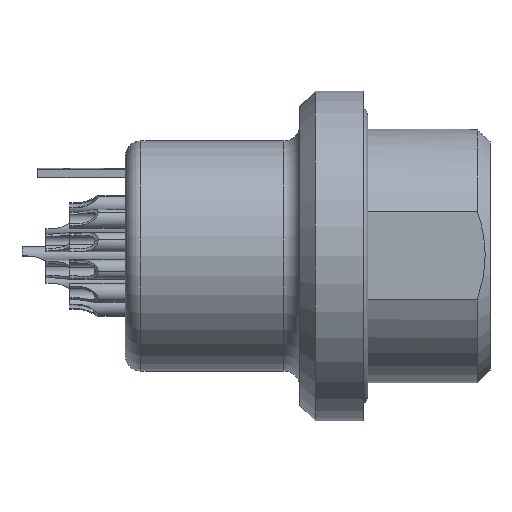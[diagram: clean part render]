
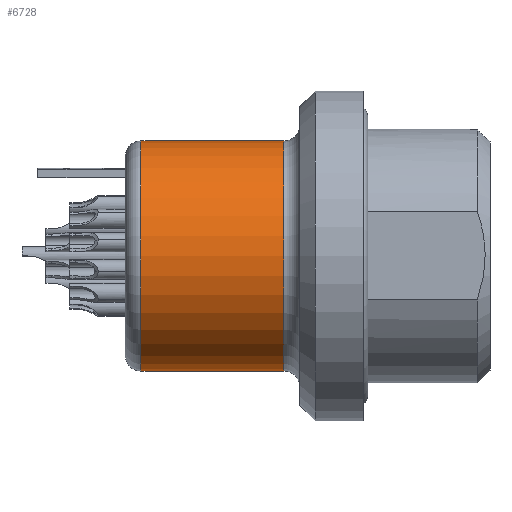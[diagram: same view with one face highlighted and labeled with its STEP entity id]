
A CAD part, top view. The second image highlights one B-rep face of the part: STEP entity #6728.
In plain terms, the highlighted cylindrical face has radius 7.25 mm (diameter 14.5 mm), a partial arc.
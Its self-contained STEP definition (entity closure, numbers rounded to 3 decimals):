
#351=CARTESIAN_POINT('',(-14.,0.,0.));
#352=DIRECTION('',(1.,0.,0.));
#353=DIRECTION('',(0.,1.,0.));
#354=AXIS2_PLACEMENT_3D('',#351,#352,#353);
#371=DIRECTION('',(-1.,0.,0.));
#372=VECTOR('',#371,9.);
#373=CARTESIAN_POINT('',(-5.,7.25,0.));
#374=LINE('',#373,#372);
#375=DIRECTION('',(-1.,0.,0.));
#376=VECTOR('',#375,9.);
#377=CARTESIAN_POINT('',(-5.,-7.25,0.));
#378=LINE('',#377,#376);
#384=CARTESIAN_POINT('',(-5.,0.,0.));
#385=DIRECTION('',(-1.,0.,0.));
#386=DIRECTION('',(0.,-1.,0.));
#387=AXIS2_PLACEMENT_3D('',#384,#385,#386);
#5587=CARTESIAN_POINT('',(-5.,7.25,0.));
#5588=VERTEX_POINT('',#5587);
#5589=CARTESIAN_POINT('',(-5.,-7.25,0.));
#5590=VERTEX_POINT('',#5589);
#5591=CARTESIAN_POINT('',(-14.,7.25,0.));
#5592=VERTEX_POINT('',#5591);
#5593=CARTESIAN_POINT('',(-14.,-7.25,0.));
#5594=VERTEX_POINT('',#5593);
#6716=CARTESIAN_POINT('',(9.15,0.,0.));
#6717=DIRECTION('',(-1.,0.,0.));
#6718=DIRECTION('',(0.,-1.,0.));
#6719=AXIS2_PLACEMENT_3D('',#6716,#6717,#6718);
#6720=CYLINDRICAL_SURFACE('',#6719,7.25);
#6721=ORIENTED_EDGE('',*,*,#6699,.F.);
#6723=ORIENTED_EDGE('',*,*,#6722,.F.);
#6724=ORIENTED_EDGE('',*,*,#6702,.T.);
#6725=ORIENTED_EDGE('',*,*,#6659,.F.);
#6726=EDGE_LOOP('',(#6721,#6723,#6724,#6725));
#6727=FACE_OUTER_BOUND('',#6726,.F.);
#355=CIRCLE('',#354,7.25);
#388=CIRCLE('',#387,7.25);
#6659=EDGE_CURVE('',#5592,#5594,#355,.T.);
#6699=EDGE_CURVE('',#5588,#5592,#374,.T.);
#6702=EDGE_CURVE('',#5590,#5594,#378,.T.);
#6722=EDGE_CURVE('',#5590,#5588,#388,.T.);
#6728=ADVANCED_FACE('',(#6727),#6720,.T.);
